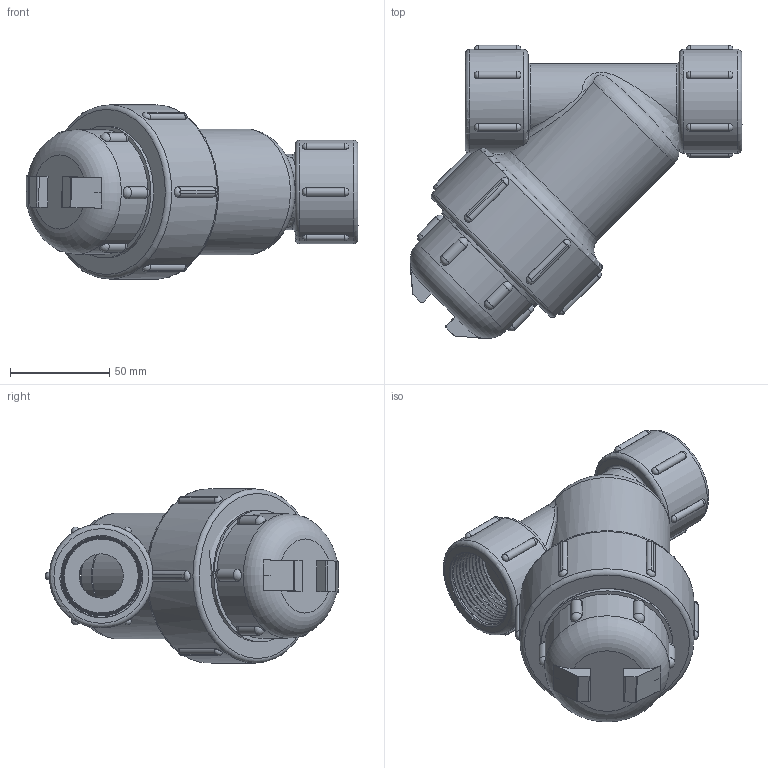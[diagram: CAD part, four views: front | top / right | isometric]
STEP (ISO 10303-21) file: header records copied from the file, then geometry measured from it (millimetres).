
FILE_DESCRIPTION(/* description */ ('Alibre Inc.'),/* implementation_level */ '2;1');
FILE_NAME(/* name */ 'export0',/* time_stamp */ '2016-10-27T12:25:51-04:00',/* author */ (''),/* organization */ (''),/* preprocessor_version */ 'ST-DEVELOPER v14',/* originating_system */ 'Alibre',/* authorisation */ '');
FILE_SCHEMA (('CONFIG_CONTROL_DESIGN'));
Length unit declared in the file: centimetre
Products named in the file (7): ID_1; ID_2; ID_3; ID_4; ID_5
Bounding box: 167.5 x 147.94 x 87.88 mm (x, y, z)
Volume: 391532.7 mm3; surface area: 165211.7 mm2
Topology: 7 solids, 7 shells, 435 faces, 1105 edges, 677 vertices
Faces by surface type: cylinder 155, plane 123, cone 57, torus 39, sphere 34, bspline 27
Full cylindrical faces by diameter (mm): 22.352 x2, 35.814 x2, 39.624 x1, 40.64 x3, 41.91 x2, 42.672 x1, 44.45 x1, 50.8 x1, 52.324 x1, 53.086 x1, 57.658 x1, 62.738 x1, 66.548 x6, 87.884 x1
Entity records: 68029 total; most frequent: CARTESIAN_POINT 58380, ORIENTED_EDGE 1998, DIRECTION 1568, EDGE_CURVE 997, AXIS2_PLACEMENT_3D 687, VERTEX_POINT 643, FACE_BOUND 486, EDGE_LOOP 485
